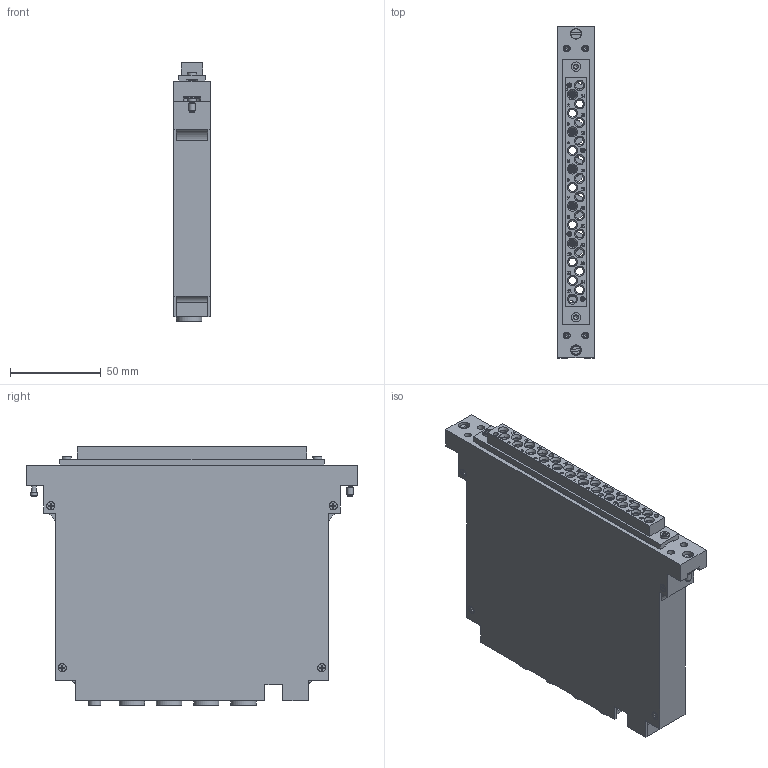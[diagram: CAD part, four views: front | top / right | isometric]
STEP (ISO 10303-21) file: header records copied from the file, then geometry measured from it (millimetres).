
FILE_DESCRIPTION(/* description */ (''),/* implementation_level */ '2;1');
FILE_NAME(/* name */ 'D:\CAD\CAD COMPLETE\web site project\DAKs\561040-RevC-STP\561040-RevC-STP.stp',/* time_stamp */ '2017-08-21T09:41:41+01:00',/* author */ ('davec'),/* organization */ (''),/* preprocessor_version */ 'ST-DEVELOPER v15.2',/* originating_system */ 'Autodesk Inventor 2014',/* authorisation */ '');
FILE_SCHEMA (('AUTOMOTIVE_DESIGN { 1 0 10303 214 3 1 1 }'));
Products named in the file (1): 561040-CU
Bounding box: 20.12 x 183.26 x 142.75 mm (x, y, z)
Volume: 137112.2 mm3; surface area: 132256.9 mm2
Topology: 6 solids, 26 shells, 3423 faces, 8425 edges, 5438 vertices
Faces by surface type: plane 1856, bspline 849, cylinder 482, cone 223, torus 13
Full cylindrical faces by diameter (mm): 0.559 x5, 0.952 x5, 0.991 x5, 1.143 x10, 1.422 x5, 1.524 x9, 1.676 x5, 1.702 x4, 1.854 x4, 2.032 x13, 2.184 x20, 2.362 x8, 2.372 x1, 2.381 x6, 2.413 x1, 2.438 x12, 2.54 x6, 2.565 x5, 2.616 x4, 2.743 x5, 2.845 x12, 2.946 x4, 2.997 x1, 3.048 x5, 3.175 x5, 3.277 x10, 3.327 x5, 3.429 x3, 3.505 x2, 3.556 x4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
Entity records: 105166 total; most frequent: CARTESIAN_POINT 29647, ORIENTED_EDGE 15222, DIRECTION 12245, EDGE_CURVE 7607, VERTEX_POINT 5238, EDGE_LOOP 4523, LINE 4425, VECTOR 4425
